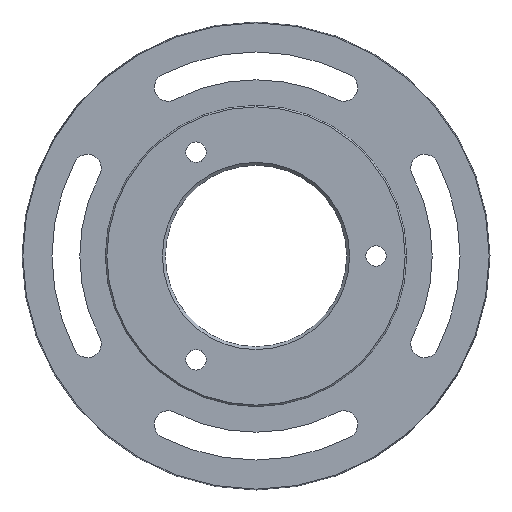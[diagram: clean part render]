
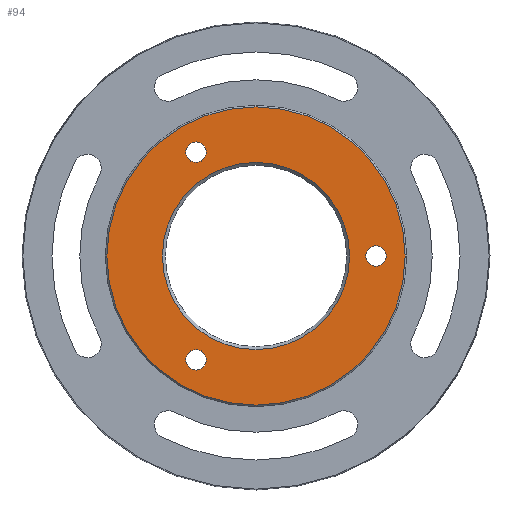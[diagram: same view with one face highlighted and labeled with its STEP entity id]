
A CAD part, left-side view. The second image highlights one B-rep face of the part: STEP entity #94.
In plain terms, the highlighted planar face has unit normal (-1, 0, 0).
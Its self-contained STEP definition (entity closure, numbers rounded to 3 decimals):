
#1 = EDGE_LOOP ( 'NONE', ( #61 ) ) ;
#2 = ORIENTED_EDGE ( 'NONE', *, *, #56, .F. ) ;
#56 = EDGE_CURVE ( 'NONE', #1000, #1000, #268, .T. ) ;
#57 = EDGE_CURVE ( 'NONE', #1052, #1052, #271, .T. ) ;
#58 = EDGE_CURVE ( 'NONE', #1050, #1050, #391, .T. ) ;
#61 = ORIENTED_EDGE ( 'NONE', *, *, #57, .T. ) ;
#62 = EDGE_LOOP ( 'NONE', ( #63 ) ) ;
#63 = ORIENTED_EDGE ( 'NONE', *, *, #58, .T. ) ;
#71 = EDGE_LOOP ( 'NONE', ( #140 ) ) ;
#72 = EDGE_CURVE ( 'NONE', #1046, #1046, #375, .T. ) ;
#91 = EDGE_CURVE ( 'NONE', #1033, #1033, #705, .T. ) ;
#94 = ADVANCED_FACE ( 'NONE', ( #633, #714, #719, #700, #706 ), #707, .F. ) ;
#116 = EDGE_LOOP ( 'NONE', ( #143 ) ) ;
#140 = ORIENTED_EDGE ( 'NONE', *, *, #91, .F. ) ;
#143 = ORIENTED_EDGE ( 'NONE', *, *, #72, .F. ) ;
#149 = DIRECTION ( 'NONE',  ( 0., 0., -1. ) ) ;
#171 = EDGE_LOOP ( 'NONE', ( #2 ) ) ;
#190 = DIRECTION ( 'NONE',  ( -1., 0., 0. ) ) ;
#266 = CARTESIAN_POINT ( 'NONE',  ( 0., 20.5, 35.507 ) ) ;
#268 = CIRCLE ( 'NONE', #395, 3.5 ) ;
#271 = CIRCLE ( 'NONE', #388, 32. ) ;
#371 = CARTESIAN_POINT ( 'NONE',  ( 0., -41., 0. ) ) ;
#372 = AXIS2_PLACEMENT_3D ( 'NONE', #371, #190, #149 ) ;
#375 = CIRCLE ( 'NONE', #372, 3.5 ) ;
#382 = DIRECTION ( 'NONE',  ( 0., 0., 1. ) ) ;
#383 = DIRECTION ( 'NONE',  ( -1., 0., 0. ) ) ;
#384 = CARTESIAN_POINT ( 'NONE',  ( 0., 0., 0. ) ) ;
#385 = AXIS2_PLACEMENT_3D ( 'NONE', #384, #383, #382 ) ;
#386 = DIRECTION ( 'NONE',  ( 0., 0., -1. ) ) ;
#387 = DIRECTION ( 'NONE',  ( 1., 0., 0. ) ) ;
#388 = AXIS2_PLACEMENT_3D ( 'NONE', #396, #387, #386 ) ;
#391 = CIRCLE ( 'NONE', #385, 51. ) ;
#393 = DIRECTION ( 'NONE',  ( 0., 0., -1. ) ) ;
#394 = DIRECTION ( 'NONE',  ( -1., 0., 0. ) ) ;
#395 = AXIS2_PLACEMENT_3D ( 'NONE', #266, #394, #393 ) ;
#396 = CARTESIAN_POINT ( 'NONE',  ( 0., 0., 0. ) ) ;
#633 = FACE_BOUND ( 'NONE', #116, .T. ) ;
#692 = DIRECTION ( 'NONE',  ( 0., 0., -1. ) ) ;
#699 = AXIS2_PLACEMENT_3D ( 'NONE', #721, #720, #692 ) ;
#700 = FACE_BOUND ( 'NONE', #1, .T. ) ;
#701 = DIRECTION ( 'NONE',  ( 0., 0., -1. ) ) ;
#702 = DIRECTION ( 'NONE',  ( -1., 0., 0. ) ) ;
#703 = CARTESIAN_POINT ( 'NONE',  ( 0., 20.5, -35.507 ) ) ;
#704 = AXIS2_PLACEMENT_3D ( 'NONE', #703, #702, #701 ) ;
#705 = CIRCLE ( 'NONE', #704, 3.5 ) ;
#706 = FACE_OUTER_BOUND ( 'NONE', #62, .T. ) ;
#707 = PLANE ( 'NONE',  #699 ) ;
#714 = FACE_BOUND ( 'NONE', #71, .T. ) ;
#719 = FACE_BOUND ( 'NONE', #171, .T. ) ;
#720 = DIRECTION ( 'NONE',  ( 1., 0., 0. ) ) ;
#721 = CARTESIAN_POINT ( 'NONE',  ( 0., 0., 0. ) ) ;
#1000 = VERTEX_POINT ( 'NONE', #1061 ) ;
#1032 = CARTESIAN_POINT ( 'NONE',  ( 0., 20.5, -39.007 ) ) ;
#1033 = VERTEX_POINT ( 'NONE', #1032 ) ;
#1045 = CARTESIAN_POINT ( 'NONE',  ( 0., -41., -3.5 ) ) ;
#1046 = VERTEX_POINT ( 'NONE', #1045 ) ;
#1049 = CARTESIAN_POINT ( 'NONE',  ( 0., 0., 51. ) ) ;
#1050 = VERTEX_POINT ( 'NONE', #1049 ) ;
#1051 = CARTESIAN_POINT ( 'NONE',  ( 0., 0., -32. ) ) ;
#1052 = VERTEX_POINT ( 'NONE', #1051 ) ;
#1061 = CARTESIAN_POINT ( 'NONE',  ( 0., 20.5, 32.007 ) ) ;
